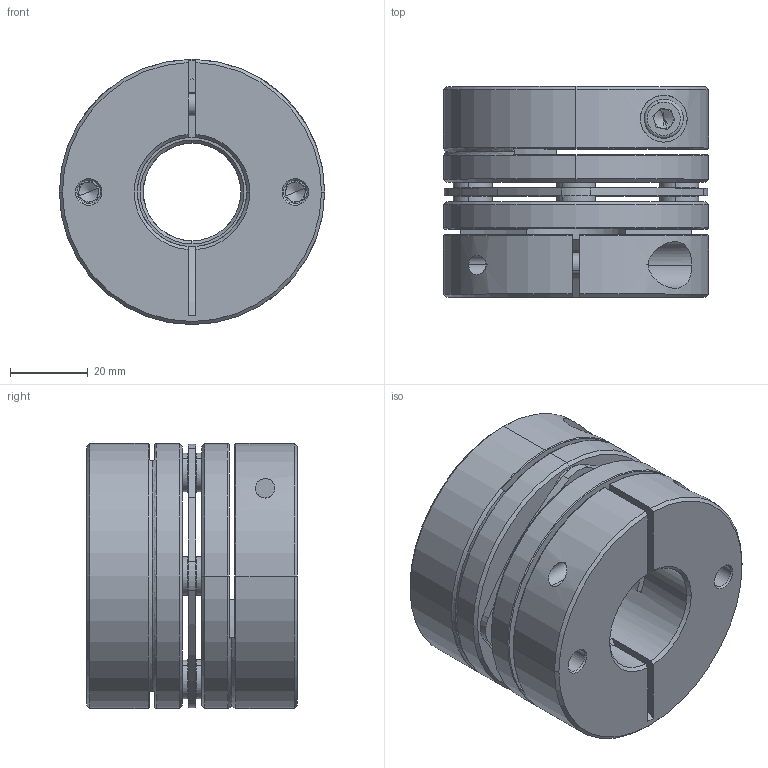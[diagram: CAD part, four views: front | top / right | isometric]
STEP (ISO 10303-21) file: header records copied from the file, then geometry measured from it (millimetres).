
FILE_DESCRIPTION (( 'STEP AP203' ), '1' );
FILE_NAME ('LD1-D68-25-28.STEP', '2021-10-26T08:02:19', ( '' ), ( '' ), 'SwSTEP 2.0', 'SolidWorks 2018', '' );
FILE_SCHEMA (( 'CONFIG_CONTROL_DESIGN' ));
Length unit declared in the file: millimetre
Products named in the file (2): 錨璃101^LD1-D68; LD1-D68-25-28
Assembly tree (1 placements, depth 2):
  LD1-D68-25-28
    錨璃101^LD1-D68
Bounding box: 68 x 54 x 68 mm (x, y, z)
Volume: 140124 mm3; surface area: 45826.9 mm2
Topology: 1 solids, 15 shells, 441 faces, 1047 edges, 642 vertices
Faces by surface type: cylinder 161, plane 136, cone 122, torus 22
Entity records: 13321 total; most frequent: CARTESIAN_POINT 2590, DIRECTION 2405, ORIENTED_EDGE 2062, EDGE_CURVE 1031, AXIS2_PLACEMENT_3D 977, VERTEX_POINT 642, CIRCLE 532, EDGE_LOOP 521
